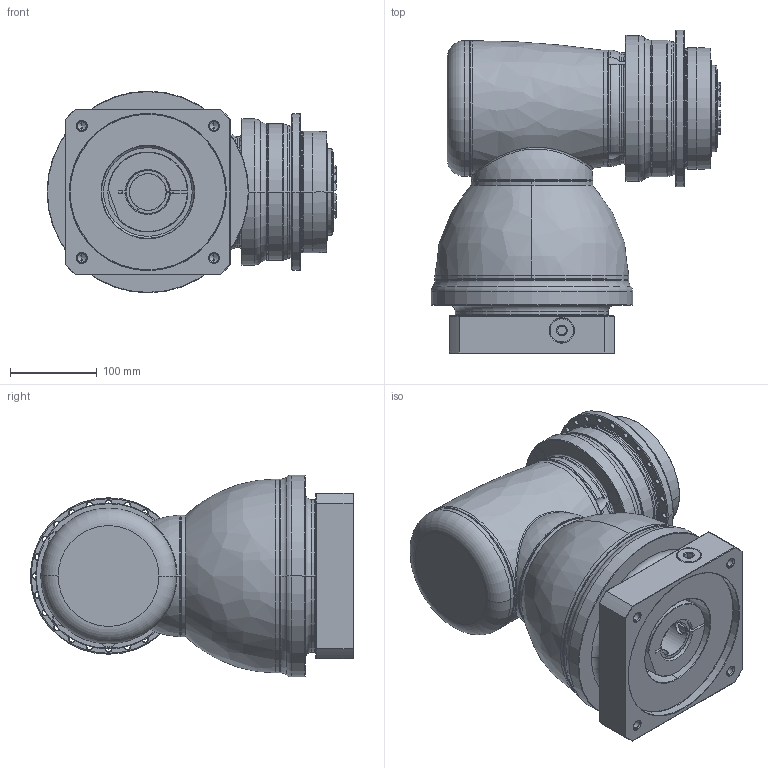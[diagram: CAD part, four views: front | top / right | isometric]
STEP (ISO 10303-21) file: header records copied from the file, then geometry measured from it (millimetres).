
FILE_DESCRIPTION((''),'2;1');
FILE_NAME('APCK140_2ST_SBG_42-P0409A00201_ASM','2018-05-18T',('d01226'),(''),'PRO/ENGINEER BY PARAMETRIC TECHNOLOGY CORPORATION, 2008410','PRO/ENGINEER BY PARAMETRIC TECHNOLOGY CORPORATION, 2008410','');
FILE_SCHEMA(('CONFIG_CONTROL_DESIGN'));
Length unit declared in the file: millimetre
Products named in the file (13): P0278501003; P03595D0103; P1211500001; P1802510011; P1018600002; P1365600001; P1007601001; P1318610301; P0409A00201; P0503A00012; P0912603001; 21711422019; APCK140_2ST_SBG_42-P0409A00201_ASM
Assembly tree (12 placements, depth 2):
  APCK140_2ST_SBG_42-P0409A00201_ASM
    P0278501003
    P03595D0103
    P1211500001
    P1802510011
    P1018600002
    P1365600001
    P1007601001
    P1318610301
    P0409A00201
    P0503A00012
    P0912603001
    21711422019
Bounding box: 333.6 x 372 x 232 mm (x, y, z)
Volume: 11568800.2 mm3; surface area: 860247.1 mm2
Topology: 13 solids, 23 shells, 801 faces, 1888 edges, 1158 vertices
Faces by surface type: cylinder 263, cone 232, plane 146, torus 134, bspline 24, sphere 2
Entity records: 30093 total; most frequent: CARTESIAN_POINT 11099, DIRECTION 4263, ORIENTED_EDGE 3706, EDGE_CURVE 1874, AXIS2_PLACEMENT_3D 1864, VERTEX_POINT 1158, CIRCLE 1052, EDGE_LOOP 924
